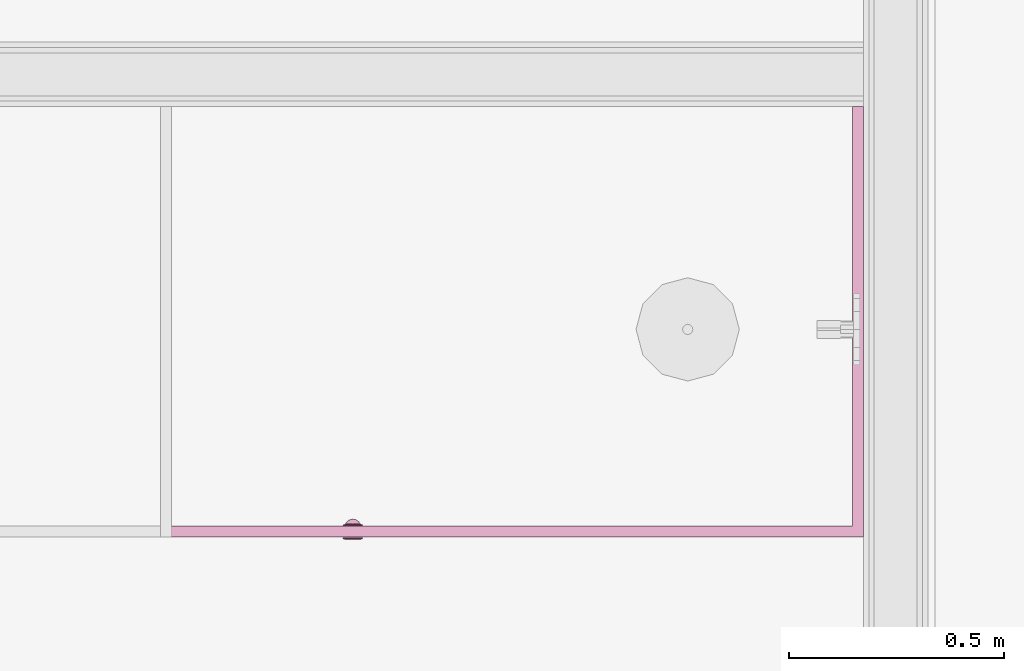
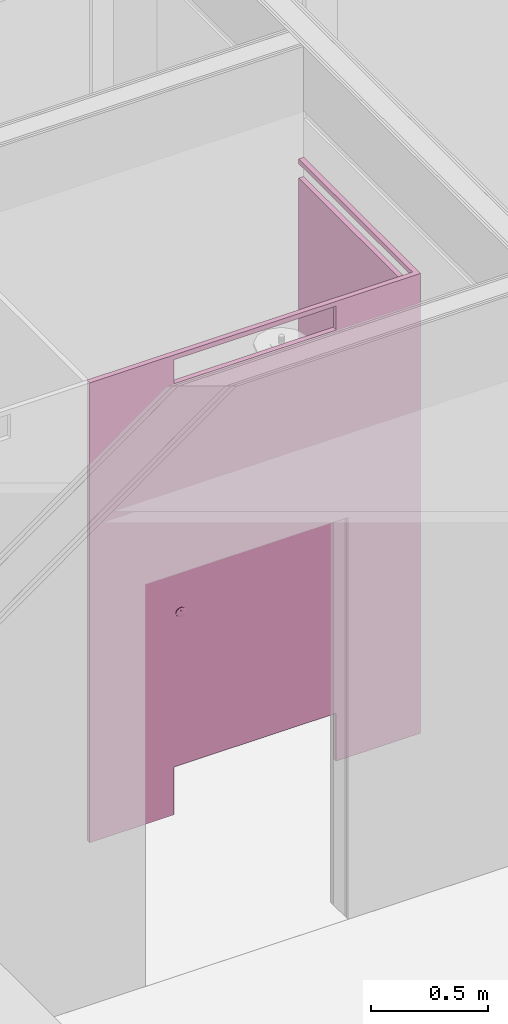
# One storey, part 105 of 109: 1 furnishing.
"""IFC2X3 building model written with IfcOpenShell, lengths in millimetres."""

from ifc_helpers import new_model, entity, si_unit, converted_unit, derived_unit, money_unit, direction, frame, origin_with_axes, place, context, subcontext, project, spatial, open_shell, faceted_brep, surface_model, type_object, element, save


model = new_model("IFC2X3")

# Units and contexts
model_context = context("Model", 3, precision=0.01, world=origin_with_axes(), true_north=direction((0.0, 1.0)))
body_context = subcontext(model_context, "Body", "Model", "MODEL_VIEW")
ifc_project = project(units=[si_unit("LENGTHUNIT", "METRE", prefix="MILLI"), si_unit("AREAUNIT", "SQUARE_METRE"), si_unit("VOLUMEUNIT", "CUBIC_METRE"), converted_unit("PLANEANGLEUNIT", "DEGREE", entity("IfcPlaneAngleMeasure", 0.0174532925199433), si_unit("PLANEANGLEUNIT", "RADIAN"), dimensions=[0, 0, 0, 0, 0, 0, 0]), money_unit("EUR"), converted_unit("TIMEUNIT", "Year", entity("IfcTimeMeasure", 31557600.0), si_unit("TIMEUNIT", "SECOND"), dimensions=[0, 0, 1, 0, 0, 0, 0]), si_unit("MASSUNIT", "GRAM", prefix="KILO"), si_unit("THERMODYNAMICTEMPERATUREUNIT", "DEGREE_CELSIUS"), si_unit("LUMINOUSINTENSITYUNIT", "LUMEN"), si_unit("ENERGYUNIT", "JOULE", prefix="MEGA"), derived_unit("THERMALCONDUCTANCEUNIT", [(si_unit("POWERUNIT", "WATT"), 1), (si_unit("LENGTHUNIT", "METRE"), -1), (si_unit("THERMODYNAMICTEMPERATUREUNIT", "KELVIN"), -1)]), derived_unit("SPECIFICHEATCAPACITYUNIT", [(si_unit("ENERGYUNIT", "JOULE"), 1), (si_unit("MASSUNIT", "GRAM", prefix="KILO"), -1), (si_unit("THERMODYNAMICTEMPERATUREUNIT", "KELVIN"), -1)]), derived_unit("MASSDENSITYUNIT", [(si_unit("MASSUNIT", "GRAM", prefix="KILO"), 1), (si_unit("VOLUMEUNIT", "CUBIC_METRE"), -1)])], contexts=[model_context])

# Site, building, storey
site_placement = place(None, origin_with_axes())
site = spatial("IfcSite", under=ifc_project, at=site_placement, Name="<site naam>", CompositionType="ELEMENT")
building_placement = place(site_placement, origin_with_axes())
building = spatial("IfcBuilding", under=site, at=building_placement, Name="<Naam gebouw>", CompositionType="ELEMENT")
storey_placement = place(building_placement, origin_with_axes())
storey = spatial("IfcBuildingStorey", under=building, at=storey_placement, Name="00 Begane grond", CompositionType="ELEMENT", Elevation=0.0)

# Furnishing
furnishing_element_type = type_object("IfcFurnishingElementType", Name="Sanitaire wanden 27")
furnishing_placement = place(storey_placement, frame((55376.69800429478, 16975.01572012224, 0.0), z_axis=(0.0, 0.0, 1.0), x_axis=(1.0, 0.0, 0.0)))
element("IfcFurnishingElement", 1, at=furnishing_placement, inside=storey, type_object=furnishing_element_type, Name="72_Sanitaire wanden Kupan_Lege", context=body_context, shape_type="SurfaceModel", body=[
    faceted_brep([(0.0, 0.0, 0.0), (0.0, 0.0, 2375.0), (-416.69929048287, 0.0, 2375.0), (-416.69929048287, 0.0, 0.0), (0.0, 25.0, 0.0), (0.0, 25.0, 2375.0), (-416.69929048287, 25.0, 2375.0), (-416.69929048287, 25.0, 0.0)], [[[0, 1, 2, 3]], [[4, 5, 1, 0]], [[1, 5, 6, 2]], [[3, 2, 6, 7]], [[0, 3, 7, 4]], [[7, 6, 5, 4]]]),
    faceted_brep([(-1216.69929048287, 0.0, 0.0), (-1216.69929048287, 0.0, 2375.0), (-1633.39858096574, 0.0, 2375.0), (-1633.39858096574, 0.0, 0.0), (-1216.69929048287, 25.0, 0.0), (-1216.69929048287, 25.0, 2375.0), (-1633.39858096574, 25.0, 2375.0), (-1633.39858096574, 25.0, 0.0)], [[[0, 1, 2, 3]], [[4, 5, 1, 0]], [[1, 5, 6, 2]], [[3, 2, 6, 7]], [[0, 3, 7, 4]], [[7, 6, 5, 4]]]),
    surface_model("IfcShellBasedSurfaceModel", [(0.0, 0.0, 0.0), (-416.69929048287, 0.0, 0.0), (-416.69929048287, 25.0, 0.0), (0.0, 25.0, 0.0)], [open_shell([[[0, 1, 2, 3]]])]),
    surface_model("IfcShellBasedSurfaceModel", [(-1216.69929048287, 0.0, 0.0), (-1633.39858096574, 0.0, 0.0), (-1633.39858096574, 25.0, 0.0), (-1216.69929048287, 25.0, 0.0)], [open_shell([[[0, 1, 2, 3]]])]),
    faceted_brep([(-1633.39858096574, 0.0, 2375.0), (-1633.39858096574, 0.0, 2400.0), (-1633.39858096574, 25.0, 2400.0), (-1633.39858096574, 25.0, 2375.0), (0.0, 0.0, 2375.0), (0.0, 0.0, 2400.0), (0.0, 25.0, 2400.0), (0.0, 25.0, 2375.0)], [[[0, 1, 2, 3]], [[4, 5, 1, 0]], [[1, 5, 6, 2]], [[3, 2, 6, 7]], [[0, 3, 7, 4]], [[7, 6, 5, 4]]]),
    faceted_brep([(-416.69929048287, 0.0, 250.0), (-416.69929048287, 0.0, 2250.0), (-1216.69929048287, 0.0, 2250.0), (-1216.69929048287, 0.0, 250.0), (-416.69929048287, 25.0, 250.0), (-416.69929048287, 25.0, 2250.0), (-1216.69929048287, 25.0, 2250.0), (-1216.69929048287, 25.0, 250.0)], [[[0, 1, 2, 3]], [[4, 5, 1, 0]], [[1, 5, 6, 2]], [[3, 2, 6, 7]], [[0, 3, 7, 4]], [[7, 6, 5, 4]]]),
    faceted_brep([(-1184.69929048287, 30.0, 1048.5), (-1184.69929048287, 31.0, 1048.5), (-1184.69929048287, 31.0, 1051.5), (-1184.69929048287, 30.0, 1051.5), (-1188.69929048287, 30.0, 1048.5), (-1188.69929048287, 31.0, 1048.5), (-1203.69929048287, 31.0, 1048.5), (-1201.365639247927, 34.44581109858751, 1048.5), (-1198.345462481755, 37.30903908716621, 1048.5), (-1194.780133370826, 39.4556574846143, 1048.5), (-1190.836543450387, 40.78518399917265, 1048.5), (-1186.69929048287, 41.23538406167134, 1048.5), (-1182.562037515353, 40.78518399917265, 1048.5), (-1178.618447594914, 39.4556574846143, 1048.5), (-1175.053118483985, 37.3090390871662, 1048.5), (-1172.032941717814, 34.4458110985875, 1048.5), (-1169.69929048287, 31.0, 1048.5), (-1169.69929048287, 31.0, 1051.5), (-1172.032941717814, 34.4458110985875, 1051.5), (-1175.053118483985, 37.3090390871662, 1051.5), (-1178.618447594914, 39.4556574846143, 1051.5), (-1182.562037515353, 40.78518399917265, 1051.5), (-1186.69929048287, 41.23538406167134, 1051.5), (-1190.836543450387, 40.78518399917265, 1051.5), (-1194.780133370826, 39.4556574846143, 1051.5), (-1198.345462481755, 37.30903908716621, 1051.5), (-1201.365639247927, 34.44581109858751, 1051.5), (-1203.69929048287, 31.0, 1051.5), (-1188.69929048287, 31.0, 1051.5), (-1188.69929048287, 30.0, 1051.5)], [[[0, 1, 2, 3]], [[0, 4, 5, 6, 7, 8, 9, 10, 11, 12, 13, 14, 15, 16, 1]], [[1, 16, 17, 2]], [[3, 2, 17, 18, 19, 20, 21, 22, 23, 24, 25, 26, 27, 28, 29]], [[4, 0, 3, 29]], [[5, 4, 29, 28]], [[6, 5, 28, 27]], [[7, 6, 27, 26]], [[8, 7, 26, 25]], [[9, 8, 25, 24]], [[10, 9, 24, 23]], [[11, 10, 23, 22]], [[12, 11, 22, 21]], [[13, 12, 21, 20]], [[14, 13, 20, 19]], [[15, 14, 19, 18]], [[16, 15, 18, 17]]]),
    surface_model("IfcShellBasedSurfaceModel", [(-1180.884948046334, 30.0, 1065.97477455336), (-1186.69929048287, 30.0, 1067.0), (-1186.69929048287, 28.0, 1073.0), (-1178.83282718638, 28.0, 1071.612930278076), (-1175.771901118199, 30.0, 1063.022755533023), (-1171.976858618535, 30.0, 1058.5), (-1169.957558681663, 30.0, 1052.952019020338), (-1169.957558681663, 30.0, 1047.047980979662), (-1171.976858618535, 30.0, 1041.5), (-1175.771901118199, 30.0, 1036.977244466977), (-1180.884948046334, 30.0, 1034.02522544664), (-1186.69929048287, 30.0, 1033.0), (-1192.513632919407, 30.0, 1034.02522544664), (-1197.626679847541, 30.0, 1036.977244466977), (-1201.421722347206, 30.0, 1041.5), (-1203.441022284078, 30.0, 1047.047980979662), (-1203.441022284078, 30.0, 1052.952019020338), (-1201.421722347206, 30.0, 1058.5), (-1197.626679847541, 30.0, 1063.022755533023), (-1192.513632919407, 30.0, 1065.97477455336), (-1194.565753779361, 28.0, 1071.612930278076), (-1186.69929048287, 25.0, 1073.0), (-1178.83282718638, 25.0, 1071.612930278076), (-1171.91517546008, 28.0, 1067.619022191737), (-1166.780706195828, 28.0, 1061.5), (-1164.048712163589, 28.0, 1053.993908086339), (-1164.048712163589, 28.0, 1046.006091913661), (-1166.780706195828, 28.0, 1038.5), (-1171.91517546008, 28.0, 1032.380977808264), (-1178.83282718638, 28.0, 1028.387069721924), (-1186.69929048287, 28.0, 1027.0), (-1194.565753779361, 28.0, 1028.387069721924), (-1201.48340550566, 28.0, 1032.380977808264), (-1206.617874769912, 28.0, 1038.5), (-1209.349868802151, 28.0, 1046.006091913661), (-1209.349868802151, 28.0, 1053.993908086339), (-1206.617874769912, 28.0, 1061.5), (-1201.483405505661, 28.0, 1067.619022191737), (-1194.565753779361, 25.0, 1071.612930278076), (-1171.91517546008, 25.0, 1067.619022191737), (-1166.780706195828, 25.0, 1061.5), (-1164.048712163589, 25.0, 1053.993908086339), (-1164.048712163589, 25.0, 1046.006091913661), (-1166.780706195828, 25.0, 1038.5), (-1171.91517546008, 25.0, 1032.380977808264), (-1178.83282718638, 25.0, 1028.387069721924), (-1186.69929048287, 25.0, 1027.0), (-1194.565753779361, 25.0, 1028.387069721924), (-1201.48340550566, 25.0, 1032.380977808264), (-1206.617874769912, 25.0, 1038.5), (-1209.349868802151, 25.0, 1046.006091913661), (-1209.349868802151, 25.0, 1053.993908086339), (-1206.617874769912, 25.0, 1061.5), (-1201.483405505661, 25.0, 1067.619022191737)], [open_shell([[[0, 1, 2, 3]], [[1, 0, 4, 5, 6, 7, 8, 9, 10, 11, 12, 13, 14, 15, 16, 17, 18, 19]], [[1, 19, 20, 2]], [[3, 2, 21, 22]], [[4, 0, 3, 23]], [[5, 4, 23, 24]], [[6, 5, 24, 25]], [[7, 6, 25, 26]], [[8, 7, 26, 27]], [[9, 8, 27, 28]], [[10, 9, 28, 29]], [[11, 10, 29, 30]], [[12, 11, 30, 31]], [[13, 12, 31, 32]], [[14, 13, 32, 33]], [[15, 14, 33, 34]], [[16, 15, 34, 35]], [[17, 16, 35, 36]], [[18, 17, 36, 37]], [[19, 18, 37, 20]], [[2, 20, 38, 21]], [[23, 3, 22, 39]], [[24, 23, 39, 40]], [[25, 24, 40, 41]], [[26, 25, 41, 42]], [[27, 26, 42, 43]], [[28, 27, 43, 44]], [[29, 28, 44, 45]], [[30, 29, 45, 46]], [[31, 30, 46, 47]], [[32, 31, 47, 48]], [[33, 32, 48, 49]], [[34, 33, 49, 50]], [[35, 34, 50, 51]], [[36, 35, 51, 52]], [[37, 36, 52, 53]], [[20, 37, 53, 38]]])]),
    faceted_brep([(-1163.69929048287, -1.200000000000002, 1050.0), (-1165.086360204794, -1.200000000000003, 1057.866463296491), (-1165.086360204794, -4.200000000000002, 1057.866463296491), (-1163.69929048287, -4.200000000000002, 1050.0), (-1165.086360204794, -1.200000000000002, 1042.13353670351), (-1169.080268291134, -1.200000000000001, 1035.215884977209), (-1175.19929048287, -1.2, 1030.081415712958), (-1182.705382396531, -1.199999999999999, 1027.349421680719), (-1190.693198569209, -1.199999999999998, 1027.349421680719), (-1198.19929048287, -1.199999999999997, 1030.081415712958), (-1204.318312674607, -1.199999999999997, 1035.21588497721), (-1208.312220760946, -1.199999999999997, 1042.13353670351), (-1209.69929048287, -1.199999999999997, 1050.0), (-1208.312220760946, -1.199999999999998, 1057.866463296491), (-1204.318312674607, -1.199999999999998, 1064.78411502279), (-1198.19929048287, -1.2, 1069.918584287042), (-1190.693198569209, -1.200000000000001, 1072.650578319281), (-1182.705382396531, -1.200000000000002, 1072.650578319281), (-1175.19929048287, -1.200000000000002, 1069.918584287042), (-1169.080268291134, -1.200000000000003, 1064.78411502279), (-1169.080268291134, -4.200000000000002, 1064.78411502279), (-1175.19929048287, -4.200000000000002, 1069.918584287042), (-1182.705382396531, -4.200000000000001, 1072.650578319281), (-1190.693198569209, -4.2, 1072.650578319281), (-1198.19929048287, -4.2, 1069.918584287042), (-1204.318312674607, -4.199999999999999, 1064.78411502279), (-1208.312220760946, -4.199999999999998, 1057.866463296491), (-1209.69929048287, -4.199999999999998, 1050.0), (-1208.312220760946, -4.199999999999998, 1042.13353670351), (-1204.318312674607, -4.199999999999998, 1035.21588497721), (-1198.19929048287, -4.199999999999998, 1030.081415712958), (-1190.693198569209, -4.199999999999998, 1027.349421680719), (-1182.705382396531, -4.199999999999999, 1027.349421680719), (-1175.19929048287, -4.2, 1030.081415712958), (-1169.080268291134, -4.2, 1035.215884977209), (-1165.086360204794, -4.200000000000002, 1042.13353670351)], [[[0, 1, 2, 3]], [[0, 4, 5, 6, 7, 8, 9, 10, 11, 12, 13, 14, 15, 16, 17, 18, 19, 1]], [[1, 19, 20, 2]], [[3, 2, 20, 21, 22, 23, 24, 25, 26, 27, 28, 29, 30, 31, 32, 33, 34, 35]], [[4, 0, 3, 35]], [[5, 4, 35, 34]], [[6, 5, 34, 33]], [[7, 6, 33, 32]], [[8, 7, 32, 31]], [[9, 8, 31, 30]], [[10, 9, 30, 29]], [[11, 10, 29, 28]], [[12, 11, 28, 27]], [[13, 12, 27, 26]], [[14, 13, 26, 25]], [[15, 14, 25, 24]], [[16, 15, 24, 23]], [[17, 16, 23, 22]], [[18, 17, 22, 21]], [[19, 18, 21, 20]]]),
    faceted_brep([(-1195.19929048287, -6.199999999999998, 1035.277568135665), (-1189.651309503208, -6.199999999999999, 1033.258268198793), (-1183.747271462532, -6.199999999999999, 1033.258268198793), (-1178.19929048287, -6.2, 1035.277568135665), (-1173.676534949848, -6.2, 1039.072610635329), (-1170.72451592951, -6.200000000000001, 1044.185657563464), (-1169.69929048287, -6.200000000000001, 1050.0), (-1170.72451592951, -6.200000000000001, 1055.814342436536), (-1173.676534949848, -6.200000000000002, 1060.927389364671), (-1178.19929048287, -6.200000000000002, 1064.722431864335), (-1183.747271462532, -6.200000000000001, 1066.741731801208), (-1189.651309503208, -6.200000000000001, 1066.741731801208), (-1195.19929048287, -6.2, 1064.722431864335), (-1199.722046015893, -6.2, 1060.927389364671), (-1202.674065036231, -6.199999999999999, 1055.814342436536), (-1203.69929048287, -6.199999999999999, 1050.0), (-1202.674065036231, -6.199999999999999, 1044.185657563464), (-1199.722046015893, -6.199999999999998, 1039.072610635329), (-1182.69929048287, -6.200000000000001, 1057.5), (-1190.69929048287, -6.2, 1057.5), (-1190.69929048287, -6.200000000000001, 1062.5), (-1182.69929048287, -6.200000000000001, 1062.5), (-1190.693198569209, -4.199999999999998, 1027.349421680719), (-1198.19929048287, -4.199999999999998, 1030.081415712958), (-1182.705382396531, -4.199999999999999, 1027.349421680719), (-1175.19929048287, -4.199999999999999, 1030.081415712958), (-1169.080268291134, -4.2, 1035.21588497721), (-1165.086360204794, -4.2, 1042.13353670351), (-1163.69929048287, -4.2, 1050.0), (-1165.086360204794, -4.200000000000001, 1057.866463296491), (-1169.080268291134, -4.200000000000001, 1064.78411502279), (-1175.19929048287, -4.200000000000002, 1069.918584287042), (-1182.705382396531, -4.200000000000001, 1072.650578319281), (-1190.693198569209, -4.2, 1072.650578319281), (-1198.19929048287, -4.2, 1069.918584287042), (-1204.318312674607, -4.2, 1064.784115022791), (-1208.312220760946, -4.199999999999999, 1057.866463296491), (-1209.69929048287, -4.199999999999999, 1050.0), (-1208.312220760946, -4.199999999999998, 1042.13353670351), (-1204.318312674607, -4.199999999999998, 1035.21588497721), (-1190.69929048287, -4.2, 1057.5), (-1182.69929048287, -4.2, 1057.5), (-1190.69929048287, -4.2, 1062.5), (-1182.69929048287, -4.200000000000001, 1062.5)], [[[0, 1, 2, 3, 4, 5, 6, 7, 8, 9, 10, 11, 12, 13, 14, 15, 16, 17], [18, 19, 20, 21]], [[22, 1, 0, 23]], [[24, 2, 1, 22]], [[25, 3, 2, 24]], [[26, 4, 3, 25]], [[27, 5, 4, 26]], [[28, 6, 5, 27]], [[29, 7, 6, 28]], [[30, 8, 7, 29]], [[31, 9, 8, 30]], [[32, 10, 9, 31]], [[33, 11, 10, 32]], [[34, 12, 11, 33]], [[35, 13, 12, 34]], [[36, 14, 13, 35]], [[37, 15, 14, 36]], [[38, 16, 15, 37]], [[39, 17, 16, 38]], [[23, 0, 17, 39]], [[40, 19, 18, 41]], [[42, 20, 19, 40]], [[43, 21, 20, 42]], [[41, 18, 21, 43]], [[34, 33, 32, 31, 30, 29, 28, 27, 26, 25, 24, 22, 23, 39, 38, 37, 36, 35], [41, 43, 42, 40]]]),
    surface_model("IfcShellBasedSurfaceModel", [(-1182.69929048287, -4.210000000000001, 1062.5), (-1182.69929048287, -4.210000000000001, 1057.5), (-1190.69929048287, -4.21, 1057.5), (-1190.69929048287, -4.21, 1062.5)], [open_shell([[[0, 1, 2, 3]]])]),
    faceted_brep([(-25.0, 25.0, 300.0), (-25.0, 25.0, 2300.0), (-25.00000000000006, 999.984279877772, 2300.0), (-25.00000000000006, 999.984279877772, 300.0), (0.0, 25.0, 300.0), (0.0, 25.0, 2300.0), (0.0, 999.984279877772, 2300.0), (0.0, 999.984279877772, 300.0)], [[[0, 1, 2, 3]], [[4, 5, 1, 0]], [[1, 5, 6, 2]], [[3, 2, 6, 7]], [[0, 3, 7, 4]], [[7, 6, 5, 4]]]),
    faceted_brep([(-25.0, 25.0, 2375.0), (-25.0, 25.0, 2400.0), (-25.00000000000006, 999.984279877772, 2400.0), (-25.00000000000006, 999.984279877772, 2375.0), (0.0, 25.0, 2375.0), (0.0, 25.0, 2400.0), (0.0, 999.984279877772, 2400.0), (0.0, 999.984279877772, 2375.0)], [[[0, 1, 2, 3]], [[4, 5, 1, 0]], [[1, 5, 6, 2]], [[3, 2, 6, 7]], [[0, 3, 7, 4]], [[7, 6, 5, 4]]]),
])

save(model, "model.ifc")
